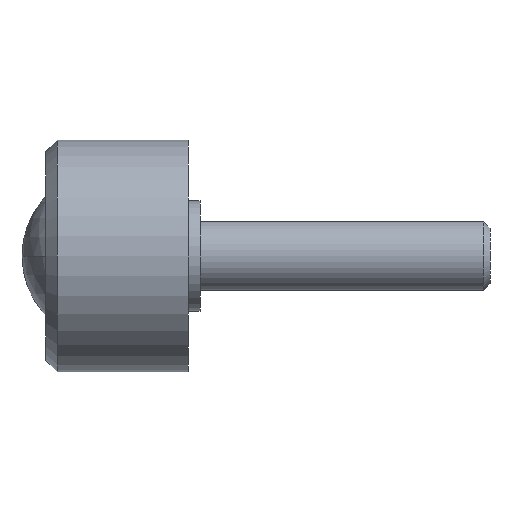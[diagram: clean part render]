
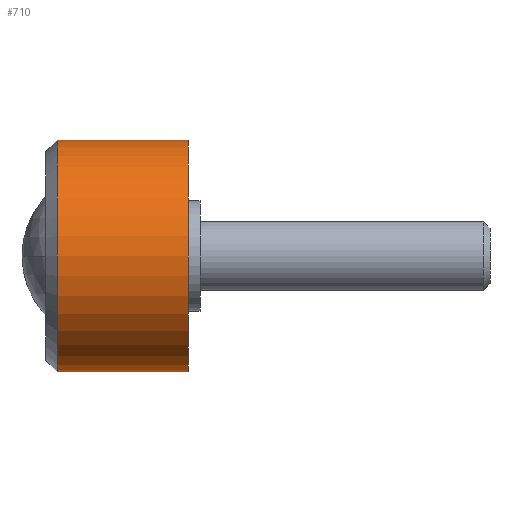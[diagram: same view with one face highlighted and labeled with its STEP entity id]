
A CAD part, left-side view. The second image highlights one B-rep face of the part: STEP entity #710.
In plain terms, the highlighted cylindrical face has radius 20 mm (diameter 40 mm), a partial arc.
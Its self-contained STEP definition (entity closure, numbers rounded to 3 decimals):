
#15 = EDGE_CURVE ( 'NONE', #337, #617, #734, .T. ) ;
#45 = VERTEX_POINT ( 'NONE', #196 ) ;
#53 = CIRCLE ( 'NONE', #671, 20. ) ;
#62 = EDGE_LOOP ( 'NONE', ( #716, #176, #577, #330 ) ) ;
#82 = CARTESIAN_POINT ( 'NONE',  ( 0., 0., 0. ) ) ;
#96 = DIRECTION ( 'NONE',  ( 0., 0., -1. ) ) ;
#101 = CARTESIAN_POINT ( 'NONE',  ( 0., 0., 20. ) ) ;
#113 = VERTEX_POINT ( 'NONE', #340 ) ;
#132 = DIRECTION ( 'NONE',  ( 0., -1., 0. ) ) ;
#155 = DIRECTION ( 'NONE',  ( 0., -1., 0. ) ) ;
#176 = ORIENTED_EDGE ( 'NONE', *, *, #306, .T. ) ;
#196 = CARTESIAN_POINT ( 'NONE',  ( 0., 0., 20. ) ) ;
#229 = EDGE_CURVE ( 'NONE', #113, #45, #284, .T. ) ;
#284 = LINE ( 'NONE', #101, #608 ) ;
#306 = EDGE_CURVE ( 'NONE', #113, #337, #53, .T. ) ;
#311 = DIRECTION ( 'NONE',  ( 0., 0., 1. ) ) ;
#330 = ORIENTED_EDGE ( 'NONE', *, *, #510, .F. ) ;
#337 = VERTEX_POINT ( 'NONE', #678 ) ;
#340 = CARTESIAN_POINT ( 'NONE',  ( 0., 22.6, 20. ) ) ;
#371 = CARTESIAN_POINT ( 'NONE',  ( 0., 22.6, 0. ) ) ;
#377 = AXIS2_PLACEMENT_3D ( 'NONE', #448, #155, #96 ) ;
#404 = FACE_OUTER_BOUND ( 'NONE', #62, .T. ) ;
#448 = CARTESIAN_POINT ( 'NONE',  ( 0., 0., 0. ) ) ;
#488 = DIRECTION ( 'NONE',  ( 0., -1., 0. ) ) ;
#510 = EDGE_CURVE ( 'NONE', #45, #617, #776, .T. ) ;
#535 = VECTOR ( 'NONE', #132, 1000. ) ;
#577 = ORIENTED_EDGE ( 'NONE', *, *, #15, .T. ) ;
#599 = DIRECTION ( 'NONE',  ( 0., 0., -1. ) ) ;
#600 = DIRECTION ( 'NONE',  ( 0., -1., 0. ) ) ;
#608 = VECTOR ( 'NONE', #600, 1000. ) ;
#617 = VERTEX_POINT ( 'NONE', #663 ) ;
#629 = CYLINDRICAL_SURFACE ( 'NONE', #377, 20. ) ;
#663 = CARTESIAN_POINT ( 'NONE',  ( 0., 0., -20. ) ) ;
#671 = AXIS2_PLACEMENT_3D ( 'NONE', #371, #488, #311 ) ;
#678 = CARTESIAN_POINT ( 'NONE',  ( 0., 22.6, -20. ) ) ;
#680 = CARTESIAN_POINT ( 'NONE',  ( 0., 0., -20. ) ) ;
#694 = AXIS2_PLACEMENT_3D ( 'NONE', #82, #746, #599 ) ;
#710 = ADVANCED_FACE ( 'NONE', ( #404 ), #629, .T. ) ;
#716 = ORIENTED_EDGE ( 'NONE', *, *, #229, .F. ) ;
#734 = LINE ( 'NONE', #680, #535 ) ;
#746 = DIRECTION ( 'NONE',  ( 0., -1., 0. ) ) ;
#776 = CIRCLE ( 'NONE', #694, 20. ) ;
